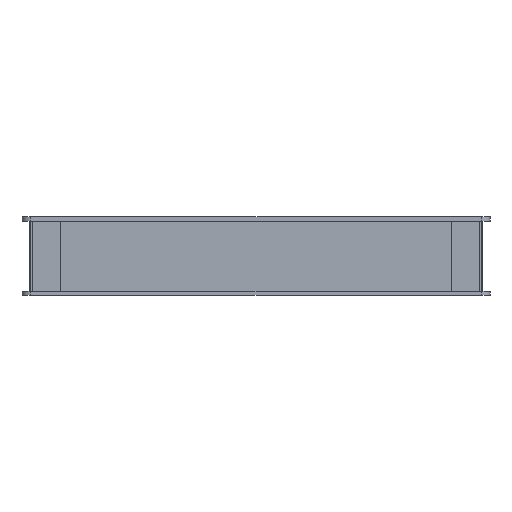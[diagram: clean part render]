
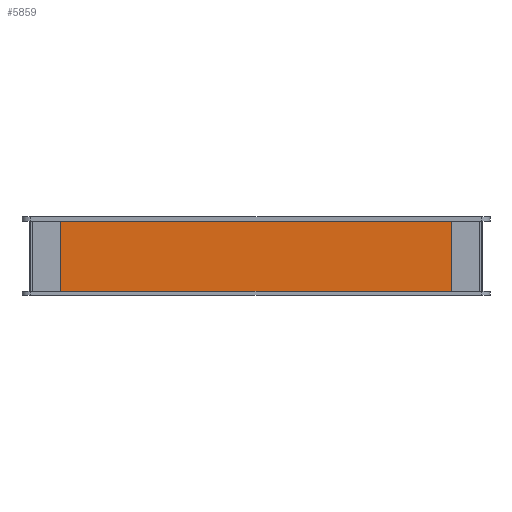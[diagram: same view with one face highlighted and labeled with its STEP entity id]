
A CAD part, front view. The second image highlights one B-rep face of the part: STEP entity #5859.
In plain terms, the highlighted planar face has unit normal (0, -1, 0).
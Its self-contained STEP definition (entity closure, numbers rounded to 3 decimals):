
#165 = VECTOR ( 'NONE', #1236, 1000. ) ;
#1236 = DIRECTION ( 'NONE',  ( 0., 0., -1. ) ) ;
#2416 = DIRECTION ( 'NONE',  ( 0., 0., 1. ) ) ;
#3026 = EDGE_CURVE ( 'NONE', #11556, #28645, #28709, .T. ) ;
#3733 = DIRECTION ( 'NONE',  ( -1., 0., 0. ) ) ;
#3925 = CARTESIAN_POINT ( 'NONE',  ( -287., -290., 0. ) ) ;
#4232 = VERTEX_POINT ( 'NONE', #24753 ) ;
#5789 = ORIENTED_EDGE ( 'NONE', *, *, #27712, .T. ) ;
#5859 = ADVANCED_FACE ( 'NONE', ( #16445 ), #6222, .F. ) ;
#6222 = PLANE ( 'NONE',  #27466 ) ;
#11556 = VERTEX_POINT ( 'NONE', #32896 ) ;
#12511 = CARTESIAN_POINT ( 'NONE',  ( 0., -290., -45. ) ) ;
#12802 = ORIENTED_EDGE ( 'NONE', *, *, #39914, .T. ) ;
#13152 = VECTOR ( 'NONE', #2416, 1000. ) ;
#15659 = DIRECTION ( 'NONE',  ( 0., 1., 0. ) ) ;
#16445 = FACE_OUTER_BOUND ( 'NONE', #38583, .T. ) ;
#17860 = CARTESIAN_POINT ( 'NONE',  ( 287., -290., -90. ) ) ;
#18252 = VERTEX_POINT ( 'NONE', #3925 ) ;
#19318 = DIRECTION ( 'NONE',  ( 1., 0., 0. ) ) ;
#21380 = VECTOR ( 'NONE', #19318, 1000. ) ;
#21497 = ORIENTED_EDGE ( 'NONE', *, *, #23860, .T. ) ;
#22410 = CARTESIAN_POINT ( 'NONE',  ( -287., -290., 0. ) ) ;
#23860 = EDGE_CURVE ( 'NONE', #18252, #4232, #34232, .T. ) ;
#24753 = CARTESIAN_POINT ( 'NONE',  ( -287., -290., -90. ) ) ;
#27466 = AXIS2_PLACEMENT_3D ( 'NONE', #12511, #15659, #28523 ) ;
#27712 = EDGE_CURVE ( 'NONE', #4232, #11556, #33459, .T. ) ;
#28523 = DIRECTION ( 'NONE',  ( -1., 0., 0. ) ) ;
#28645 = VERTEX_POINT ( 'NONE', #33695 ) ;
#28709 = LINE ( 'NONE', #17860, #13152 ) ;
#31991 = CARTESIAN_POINT ( 'NONE',  ( -287., -290., -90. ) ) ;
#32394 = LINE ( 'NONE', #22410, #34804 ) ;
#32896 = CARTESIAN_POINT ( 'NONE',  ( 287., -290., -90. ) ) ;
#33459 = LINE ( 'NONE', #40213, #21380 ) ;
#33695 = CARTESIAN_POINT ( 'NONE',  ( 287., -290., 0. ) ) ;
#34232 = LINE ( 'NONE', #31991, #165 ) ;
#34804 = VECTOR ( 'NONE', #3733, 1000. ) ;
#38080 = ORIENTED_EDGE ( 'NONE', *, *, #3026, .T. ) ;
#38583 = EDGE_LOOP ( 'NONE', ( #38080, #12802, #21497, #5789 ) ) ;
#39914 = EDGE_CURVE ( 'NONE', #28645, #18252, #32394, .T. ) ;
#40213 = CARTESIAN_POINT ( 'NONE',  ( -287., -290., -90. ) ) ;
